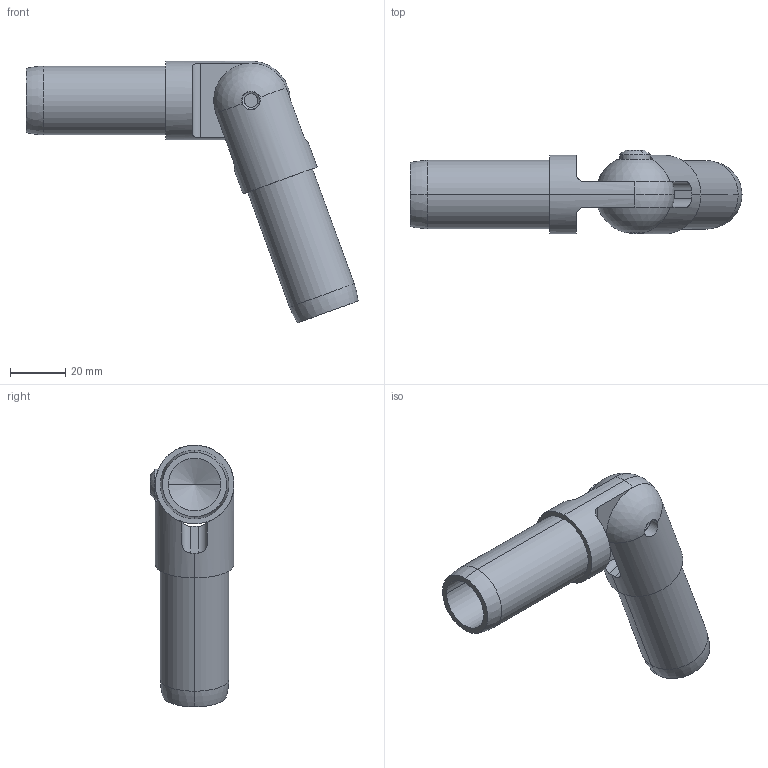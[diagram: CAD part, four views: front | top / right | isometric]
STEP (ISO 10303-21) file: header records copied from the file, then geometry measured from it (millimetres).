
FILE_DESCRIPTION (( 'STEP AP214' ), '1' );
FILE_NAME ('1 Inch In-plane Adjustable Angle 2-Tube Joint Kit.STEP', '2014-01-10T16:40:15', ( 'ydmin' ), ( 'Microsoft' ), 'SwSTEP 2.0', 'SolidWorks 2013', '' );
FILE_SCHEMA (( 'AUTOMOTIVE_DESIGN' ));
Length unit declared in the file: inch
Products named in the file (1): 1 Inch In-plane Adjustable Angle 2-Tube Joint Kit
Bounding box: 120.56 x 30.44 x 95.03 mm (x, y, z)
Volume: 50603.2 mm3; surface area: 25813.7 mm2
Topology: 4 solids, 4 shells, 212 faces, 456 edges, 253 vertices
Faces by surface type: cylinder 85, cone 79, plane 30, bspline 8, sphere 6, torus 4
Entity records: 11890 total; most frequent: CARTESIAN_POINT 4663, DIRECTION 917, ORIENTED_EDGE 904, EDGE_CURVE 452, AXIS2_PLACEMENT_3D 361, VERTEX_POINT 253, EDGE_LOOP 223, LENGTH_MEASURE_WITH_UNIT 218
